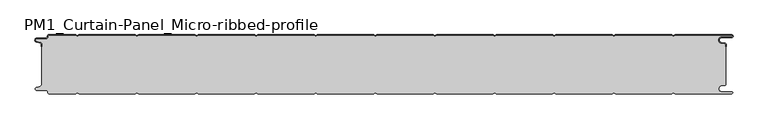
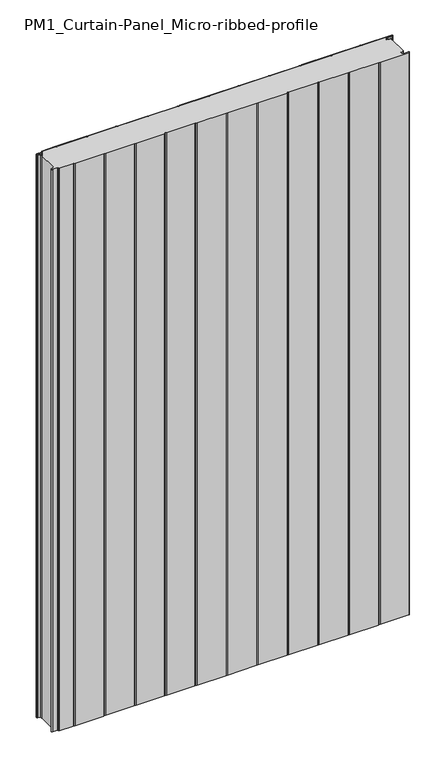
"""IFC4 building model written with IfcOpenShell, lengths in millimetres: plate geometry, PM1_Curtain-Panel_Micro-ribbed-profile : ACH_PM1_Acoustic-Sectioning-Panel_100M."""

from ifc_helpers import new_model, si_unit, point, frame, frame_2d, origin, origin_with_axes, place, context, project, spatial, polyline, circle_curve, trimmed, segment, composite_curve, outline, extrude, source, transform, mapped, element, save
from ifc_brep_helpers import plane_surface, cylinder_surface, revolved_surface, advanced_brep


def pm1_curtain_panel_micro_ribbed_profile_215b7ad8(model_context):
    return source(origin(), model_context, "Body", "SolidModel", [
        advanced_brep(
        [(-575.0, -15.878557, 1945.7507136), (-575.0, -20.0, 1945.7507136), (-574.2, -20.0, 1945.7507136), (-574.2, -15.878557, 1945.7507136), (-576.370137, -13.1503208, 1945.7507136), (-582.529863, -11.728236, 1945.7507136), (-581.9, -6.2, 1945.7507136), (-566.4, -6.2, 1945.7507136), (-563.6, -3.4, 1945.7507136), (-563.6, -2.0, 1945.7507136), (-562.4, -0.8, 1945.7507136), (-517.3143588, -0.8, 1945.7507136), (-514.4, -2.482606, 1945.7507136), (-511.4856412, -0.8, 1945.7507136), (-417.3143588, -0.8, 1945.7507136), (-414.4, -2.482606, 1945.7507136), (-411.4856412, -0.8, 1945.7507136), (-317.3143588, -0.8, 1945.7507136), (-314.4, -2.482606, 1945.7507136), (-311.4856412, -0.8, 1945.7507136), (-217.3143588, -0.8, 1945.7507136), (-214.4, -2.482606, 1945.7507136), (-211.4856412, -0.8, 1945.7507136), (-117.3143588, -0.8, 1945.7507136), (-114.4, -2.482606, 1945.7507136), (-111.4856412, -0.8, 1945.7507136), (-17.3143588, -0.8, 1945.7507136), (-14.4, -2.482606, 1945.7507136), (-11.4856412, -0.8, 1945.7507136), (82.6856412, -0.8, 1945.7507136), (85.6, -2.482606, 1945.7507136), (88.5143588, -0.8, 1945.7507136), (182.6856412, -0.8, 1945.7507136), (185.6, -2.482606, 1945.7507136), (188.5143588, -0.8, 1945.7507136), (282.6856412, -0.8, 1945.7507136), (285.6, -2.482606, 1945.7507136), (288.5143588, -0.8, 1945.7507136), (382.6856412, -0.8, 1945.7507136), (385.6, -2.482606, 1945.7507136), (388.5143588, -0.8, 1945.7507136), (482.6856412, -0.8, 1945.7507136), (485.6, -2.482606, 1945.7507136), (488.5143588, -0.8, 1945.7507136), (583.1, -0.8, 1945.7507136), (583.1, -4.2, 1945.7507136), (566.1, -4.2, 1945.7507136), (565.2664884, -13.7270771, 1945.7507136), (571.7125669, -14.8636953, 1945.7507136), (573.2, -16.6363492, 1945.7507136), (573.2, -20.0, 1945.7507136), (574.0, -20.0, 1945.7507136), (574.0, -16.6363492, 1945.7507136), (571.8514855, -14.0758491, 1945.7507136), (565.405407, -12.939231, 1945.7507136), (566.1, -5.0, 1945.7507136), (583.1, -5.0, 1945.7507136), (585.6, -2.5, 1945.7507136), (583.1, 0.0, 1945.7507136), (488.2999995, 0.0, 1945.7507136), (485.6, -1.5588455, 1945.7507136), (482.9000005, 0.0, 1945.7507136), (388.2999995, 0.0, 1945.7507136), (385.6, -1.5588455, 1945.7507136), (382.9000005, 0.0, 1945.7507136), (288.2999995, 0.0, 1945.7507136), (285.6, -1.5588455, 1945.7507136), (282.9000005, 0.0, 1945.7507136), (188.2999995, 0.0, 1945.7507136), (185.6, -1.5588455, 1945.7507136), (182.9000005, 0.0, 1945.7507136), (88.2999995, 0.0, 1945.7507136), (85.6, -1.5588455, 1945.7507136), (82.9000005, 0.0, 1945.7507136), (-11.7000005, 0.0, 1945.7507136), (-14.4, -1.5588455, 1945.7507136), (-17.0999995, 0.0, 1945.7507136), (-111.7000005, 0.0, 1945.7507136), (-114.4, -1.5588455, 1945.7507136), (-117.0999995, 0.0, 1945.7507136), (-211.7000005, 0.0, 1945.7507136), (-214.4, -1.5588455, 1945.7507136), (-217.0999995, 0.0, 1945.7507136), (-311.7000005, 0.0, 1945.7507136), (-314.4, -1.5588455, 1945.7507136), (-317.0999995, 0.0, 1945.7507136), (-411.7000005, 0.0, 1945.7507136), (-414.4, -1.5588455, 1945.7507136), (-417.0999995, 0.0, 1945.7507136), (-511.7000005, 0.0, 1945.7507136), (-514.4, -1.5588455, 1945.7507136), (-517.0999995, 0.0, 1945.7507136), (-562.4, 0.0, 1945.7507136), (-564.4, -2.0, 1945.7507136), (-564.4, -3.4, 1945.7507136), (-566.4, -5.4, 1945.7507136), (-581.9, -5.4, 1945.7507136), (-582.7098239, -12.5077322, 1945.7507136), (-576.5500979, -13.929817, 1945.7507136), (-575.0, -15.878557, 0.0), (-576.5500978, -13.9298169, 0.0), (-582.7098239, -12.507732, 0.0), (-581.9, -5.4, 0.0), (-566.4, -5.4, 0.0), (-564.4, -3.4, 0.0), (-564.4, -2.0, 0.0), (-562.4, 0.0, 0.0), (-517.0999995, 0.0, 0.0), (-514.4, -1.5588455, 0.0), (-511.7000005, 0.0, 0.0), (-417.0999995, 0.0, 0.0), (-414.4, -1.5588455, 0.0), (-411.7000005, 0.0, 0.0), (-317.0999995, 0.0, 0.0), (-314.4, -1.5588455, 0.0), (-311.7000005, 0.0, 0.0), (-217.0999995, 0.0, 0.0), (-214.4, -1.5588455, 0.0), (-211.7000005, 0.0, 0.0), (-117.0999995, 0.0, 0.0), (-114.4, -1.5588455, 0.0), (-111.7000005, 0.0, 0.0), (-17.0999995, 0.0, 0.0), (-14.4, -1.5588455, 0.0), (-11.7000005, 0.0, 0.0), (82.9000005, 0.0, 0.0), (85.6, -1.5588455, 0.0), (88.2999995, 0.0, 0.0), (182.9000005, 0.0, 0.0), (185.6, -1.5588455, 0.0), (188.2999995, 0.0, 0.0), (282.9000005, 0.0, 0.0), (285.6, -1.5588455, 0.0), (288.2999995, 0.0, 0.0), (382.9000005, 0.0, 0.0), (385.6, -1.5588455, 0.0), (388.2999995, 0.0, 0.0), (482.9000005, 0.0, 0.0), (485.6, -1.5588455, 0.0), (488.2999995, 0.0, 0.0), (583.1, 0.0, 0.0), (585.6, -2.5, 0.0), (583.1, -5.0, 0.0), (566.1, -5.0, 0.0), (565.405407, -12.939231, 0.0), (571.8514855, -14.0758491, 0.0), (574.0, -16.6363492, 0.0), (574.0, -20.0, 0.0), (573.2, -20.0, 0.0), (573.2, -16.6363492, 0.0), (571.7125669, -14.8636953, 0.0), (565.2664884, -13.7270772, 0.0), (566.1, -4.2, 0.0), (583.1, -4.2, 0.0), (583.1, -0.8, 0.0), (488.5143588, -0.8, 0.0), (485.6, -2.482606, 0.0), (482.6856412, -0.8, 0.0), (388.5143588, -0.8, 0.0), (385.6, -2.482606, 0.0), (382.6856412, -0.8, 0.0), (288.5143588, -0.8, 0.0), (285.6, -2.482606, 0.0), (282.6856412, -0.8, 0.0), (188.5143588, -0.8, 0.0), (185.6, -2.482606, 0.0), (182.6856412, -0.8, 0.0), (88.5143588, -0.8, 0.0), (85.6, -2.482606, 0.0), (82.6856412, -0.8, 0.0), (-11.4856412, -0.8, 0.0), (-14.4, -2.482606, 0.0), (-17.3143588, -0.8, 0.0), (-111.4856412, -0.8, 0.0), (-114.4, -2.482606, 0.0), (-117.3143588, -0.8, 0.0), (-211.4856412, -0.8, 0.0), (-214.4, -2.482606, 0.0), (-217.3143588, -0.8, 0.0), (-311.4856412, -0.8, 0.0), (-314.4, -2.482606, 0.0), (-317.3143588, -0.8, 0.0), (-411.4856412, -0.8, 0.0), (-414.4, -2.482606, 0.0), (-417.3143588, -0.8, 0.0), (-511.4856412, -0.8, 0.0), (-514.4, -2.482606, 0.0), (-517.3143588, -0.8, 0.0), (-562.4, -0.8, 0.0), (-563.6, -2.0, 0.0), (-563.6, -3.4, 0.0), (-566.4, -6.2, 0.0), (-581.9, -6.2, 0.0), (-582.529863, -11.7282362, 0.0), (-576.370137, -13.150321, 0.0), (-574.2, -15.878557, 0.0), (-574.2, -20.0, 0.0), (-575.0, -20.0, 0.0)],
        [
            (0, 1),
            (1, 2),
            (2, 3),
            (3, 4, circle_curve(frame((-577.0, -15.878557, 1945.7507136), z_axis=(0.0, 0.0, 1.0), x_axis=(1.0, 0.0, 0.0)), 2.8)),
            (4, 5),
            (5, 6, circle_curve(frame((-581.9, -9.0, 1945.7507136), z_axis=(0.0, 0.0, -1.0), x_axis=(1.0, 0.0, 0.0)), 2.8)),
            (6, 7),
            (7, 8, circle_curve(frame((-566.4, -3.4, 1945.7507136), z_axis=(0.0, 0.0, 1.0), x_axis=(1.0, 0.0, 0.0)), 2.8)),
            (8, 9),
            (9, 10, circle_curve(frame((-562.4, -2.0, 1945.7507136), z_axis=(0.0, 0.0, -1.0), x_axis=(1.0, 0.0, 0.0)), 1.2)),
            (10, 11),
            (11, 12),
            (12, 13),
            (13, 14),
            (14, 15),
            (15, 16),
            (16, 17),
            (17, 18),
            (18, 19),
            (19, 20),
            (20, 21),
            (21, 22),
            (22, 23),
            (23, 24),
            (24, 25),
            (25, 26),
            (26, 27),
            (27, 28),
            (28, 29),
            (29, 30),
            (30, 31),
            (31, 32),
            (32, 33),
            (33, 34),
            (34, 35),
            (35, 36),
            (36, 37),
            (37, 38),
            (38, 39),
            (39, 40),
            (40, 41),
            (41, 42),
            (42, 43),
            (43, 44),
            (44, 45, circle_curve(frame((583.1, -2.5, 1945.7507136), z_axis=(0.0, 0.0, -1.0), x_axis=(1.0, 0.0, 0.0)), 1.7)),
            (45, 46),
            (46, 47, circle_curve(frame((566.1, -9.0, 1945.7507136), z_axis=(0.0, 0.0, 1.0), x_axis=(1.0, 0.0, 0.0)), 4.8)),
            (47, 48),
            (48, 49, circle_curve(frame((571.4, -16.6363492, 1945.7507136), z_axis=(0.0, 0.0, -1.0), x_axis=(1.0, 0.0, 0.0)), 1.8)),
            (49, 50),
            (50, 51),
            (51, 52),
            (52, 53, circle_curve(frame((571.4, -16.6363492, 1945.7507136), z_axis=(0.0, 0.0, 1.0), x_axis=(1.0, 0.0, 0.0)), 2.6)),
            (53, 54),
            (54, 55, circle_curve(frame((566.1, -9.0, 1945.7507136), z_axis=(0.0, 0.0, -1.0), x_axis=(1.0, 0.0, 0.0)), 4.0)),
            (55, 56),
            (56, 57, circle_curve(frame((583.1, -2.5, 1945.7507136), z_axis=(0.0, 0.0, 1.0), x_axis=(1.0, 0.0, 0.0)), 2.5)),
            (57, 58, circle_curve(frame((583.1, -2.5, 1945.7507136), z_axis=(0.0, 0.0, 1.0), x_axis=(1.0, 0.0, 0.0)), 2.5)),
            (58, 59),
            (59, 60),
            (60, 61),
            (61, 62),
            (62, 63),
            (63, 64),
            (64, 65),
            (65, 66),
            (66, 67),
            (67, 68),
            (68, 69),
            (69, 70),
            (70, 71),
            (71, 72),
            (72, 73),
            (73, 74),
            (74, 75),
            (75, 76),
            (76, 77),
            (77, 78),
            (78, 79),
            (79, 80),
            (80, 81),
            (81, 82),
            (82, 83),
            (83, 84),
            (84, 85),
            (85, 86),
            (86, 87),
            (87, 88),
            (88, 89),
            (89, 90),
            (90, 91),
            (91, 92),
            (92, 93, circle_curve(frame((-562.4, -2.0, 1945.7507136), z_axis=(0.0, 0.0, 1.0), x_axis=(1.0, 0.0, 0.0)), 2.0)),
            (93, 94),
            (94, 95, circle_curve(frame((-566.4, -3.4, 1945.7507136), z_axis=(0.0, 0.0, -1.0), x_axis=(1.0, 0.0, 0.0)), 2.0)),
            (95, 96),
            (96, 97, circle_curve(frame((-581.9, -9.0, 1945.7507136), z_axis=(0.0, 0.0, 1.0), x_axis=(1.0, 0.0, 0.0)), 3.6)),
            (97, 98),
            (98, 0, circle_curve(frame((-577.0, -15.878557, 1945.7507136), z_axis=(0.0, 0.0, -1.0), x_axis=(1.0, 0.0, 0.0)), 2.0)),
            (99, 100, circle_curve(frame((-577.0, -15.878557, 0.0), z_axis=(0.0, 0.0, 1.0), x_axis=(1.0, 0.0, 0.0)), 2.0)),
            (100, 101),
            (101, 102, circle_curve(frame((-581.9, -9.0, 0.0), z_axis=(0.0, 0.0, -1.0), x_axis=(1.0, 0.0, 0.0)), 3.6)),
            (102, 103),
            (103, 104, circle_curve(frame((-566.4, -3.4, 0.0), z_axis=(0.0, 0.0, 1.0), x_axis=(1.0, 0.0, 0.0)), 2.0)),
            (104, 105),
            (105, 106, circle_curve(frame((-562.4, -2.0, 0.0), z_axis=(0.0, 0.0, -1.0), x_axis=(1.0, 0.0, 0.0)), 2.0)),
            (106, 107),
            (107, 108),
            (108, 109),
            (109, 110),
            (110, 111),
            (111, 112),
            (112, 113),
            (113, 114),
            (114, 115),
            (115, 116),
            (116, 117),
            (117, 118),
            (118, 119),
            (119, 120),
            (120, 121),
            (121, 122),
            (122, 123),
            (123, 124),
            (124, 125),
            (125, 126),
            (126, 127),
            (127, 128),
            (128, 129),
            (129, 130),
            (130, 131),
            (131, 132),
            (132, 133),
            (133, 134),
            (134, 135),
            (135, 136),
            (136, 137),
            (137, 138),
            (138, 139),
            (139, 140),
            (140, 141, circle_curve(frame((583.1, -2.5, 0.0), z_axis=(0.0, 0.0, -1.0), x_axis=(1.0, 0.0, 0.0)), 2.5)),
            (141, 142, circle_curve(frame((583.1, -2.5, 0.0), z_axis=(0.0, 0.0, -1.0), x_axis=(1.0, 0.0, 0.0)), 2.5)),
            (142, 143),
            (143, 144, circle_curve(frame((566.1, -9.0, 0.0), z_axis=(0.0, 0.0, 1.0), x_axis=(1.0, 0.0, 0.0)), 4.0)),
            (144, 145),
            (145, 146, circle_curve(frame((571.4, -16.6363492, 0.0), z_axis=(0.0, 0.0, -1.0), x_axis=(1.0, 0.0, 0.0)), 2.6)),
            (146, 147),
            (147, 148),
            (148, 149),
            (149, 150, circle_curve(frame((571.4, -16.6363492, 0.0), z_axis=(0.0, 0.0, 1.0), x_axis=(1.0, 0.0, 0.0)), 1.8)),
            (150, 151),
            (151, 152, circle_curve(frame((566.1, -9.0, 0.0), z_axis=(0.0, 0.0, -1.0), x_axis=(1.0, 0.0, 0.0)), 4.8)),
            (152, 153),
            (153, 154, circle_curve(frame((583.1, -2.5, 0.0), z_axis=(0.0, 0.0, 1.0), x_axis=(1.0, 0.0, 0.0)), 1.7)),
            (154, 155),
            (155, 156),
            (156, 157),
            (157, 158),
            (158, 159),
            (159, 160),
            (160, 161),
            (161, 162),
            (162, 163),
            (163, 164),
            (164, 165),
            (165, 166),
            (166, 167),
            (167, 168),
            (168, 169),
            (169, 170),
            (170, 171),
            (171, 172),
            (172, 173),
            (173, 174),
            (174, 175),
            (175, 176),
            (176, 177),
            (177, 178),
            (178, 179),
            (179, 180),
            (180, 181),
            (181, 182),
            (182, 183),
            (183, 184),
            (184, 185),
            (185, 186),
            (186, 187),
            (187, 188),
            (188, 189, circle_curve(frame((-562.4, -2.0, 0.0), z_axis=(0.0, 0.0, 1.0), x_axis=(1.0, 0.0, 0.0)), 1.2)),
            (189, 190),
            (190, 191, circle_curve(frame((-566.4, -3.4, 0.0), z_axis=(0.0, 0.0, -1.0), x_axis=(1.0, 0.0, 0.0)), 2.8)),
            (191, 192),
            (192, 193, circle_curve(frame((-581.9, -9.0, 0.0), z_axis=(0.0, 0.0, 1.0), x_axis=(1.0, 0.0, 0.0)), 2.8)),
            (193, 194),
            (194, 195, circle_curve(frame((-577.0, -15.878557, 0.0), z_axis=(0.0, 0.0, -1.0), x_axis=(1.0, 0.0, 0.0)), 2.8)),
            (195, 196),
            (196, 197),
            (197, 99),
            (0, 99),
            (197, 1),
            (196, 2),
            (195, 3),
            (194, 4),
            (193, 5),
            (192, 6),
            (191, 7),
            (190, 8),
            (189, 9),
            (188, 10),
            (187, 11),
            (186, 12),
            (185, 13),
            (184, 14),
            (183, 15),
            (182, 16),
            (181, 17),
            (180, 18),
            (179, 19),
            (178, 20),
            (177, 21),
            (176, 22),
            (175, 23),
            (174, 24),
            (173, 25),
            (172, 26),
            (171, 27),
            (170, 28),
            (169, 29),
            (168, 30),
            (167, 31),
            (166, 32),
            (165, 33),
            (164, 34),
            (163, 35),
            (162, 36),
            (161, 37),
            (160, 38),
            (159, 39),
            (158, 40),
            (157, 41),
            (156, 42),
            (155, 43),
            (154, 44),
            (153, 45),
            (152, 46),
            (151, 47),
            (150, 48),
            (149, 49),
            (148, 50),
            (147, 51),
            (146, 52),
            (145, 53),
            (144, 54),
            (143, 55),
            (142, 56),
            (140, 58),
            (139, 59),
            (138, 60),
            (137, 61),
            (136, 62),
            (135, 63),
            (134, 64),
            (133, 65),
            (132, 66),
            (131, 67),
            (130, 68),
            (129, 69),
            (128, 70),
            (127, 71),
            (126, 72),
            (125, 73),
            (124, 74),
            (123, 75),
            (122, 76),
            (121, 77),
            (120, 78),
            (119, 79),
            (118, 80),
            (117, 81),
            (116, 82),
            (115, 83),
            (114, 84),
            (113, 85),
            (112, 86),
            (111, 87),
            (110, 88),
            (109, 89),
            (108, 90),
            (107, 91),
            (106, 92),
            (105, 93),
            (104, 94),
            (103, 95),
            (102, 96),
            (101, 97),
            (100, 98),
        ],
        [
            plane_surface(frame((-575.0, 0.0, 1945.7507136), z_axis=(0.0, 0.0, 1.0), x_axis=(0.0, 1.0, 0.0))),
            plane_surface(frame((-575.0, 0.0, 0.0), z_axis=(0.0, 0.0, -1.0), x_axis=(0.0, 1.0, 0.0))),
            plane_surface(frame((-575.0, -15.878557, 1945.7507136), z_axis=(-1.0, 0.0, 0.0), x_axis=(0.0, 0.0, -1.0))),
            plane_surface(frame((-575.0, -20.0, 1945.7507136), z_axis=(0.0, -1.0, 0.0), x_axis=(0.0, 0.0, -1.0))),
            plane_surface(frame((-574.2, -20.0, 1945.7507136), z_axis=(1.0, 0.0, 0.0), x_axis=(0.0, 0.0, -1.0))),
            cylinder_surface(frame((-577.0, -15.878557, 1945.7507136), z_axis=(0.0, 0.0, 1.0), x_axis=(1.0, 0.0, 0.0)), 2.8),
            plane_surface(frame((-576.370137, -13.150321, 1945.7507136), z_axis=(0.22495108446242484, 0.9743700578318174, 0.0), x_axis=(0.0, 0.0, -1.0))),
            revolved_surface(polyline([(-579.1, -9.0, 0.0), (-579.1, -9.0, 1945.7507136)]), (-581.9, -9.0, 1945.7507136), (0.0, 0.0, -1.0)),
            plane_surface(frame((-581.9, -6.2, 1945.7507136), z_axis=(0.0, -1.0, 0.0), x_axis=(0.0, 0.0, -1.0))),
            cylinder_surface(frame((-566.4, -3.4, 1945.7507136), z_axis=(0.0, 0.0, 1.0), x_axis=(1.0, 0.0, 0.0)), 2.8),
            plane_surface(frame((-563.6, -3.4, 1945.7507136), z_axis=(1.0, 0.0, 0.0), x_axis=(0.0, 0.0, -1.0))),
            revolved_surface(polyline([(-561.1999999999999, -2.0, 0.0), (-561.1999999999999, -2.0, 1945.7507136)]), (-562.4, -2.0, 1945.7507136), (0.0, 0.0, -1.0)),
            plane_surface(frame((-562.4, -0.8, 1945.7507136), z_axis=(0.0, -1.0, 0.0), x_axis=(0.0, 0.0, -1.0))),
            plane_surface(frame((-517.3143588, -0.8, 1945.7507136), z_axis=(-0.5000000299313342, -0.8660253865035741, 0.0), x_axis=(0.0, 0.0, -1.0))),
            plane_surface(frame((-514.4, -2.482606, 1945.7507136), z_axis=(0.5000000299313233, -0.8660253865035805, 0.0), x_axis=(0.0, 0.0, -1.0))),
            plane_surface(frame((-511.4856412, -0.8, 1945.7507136), z_axis=(0.0, -1.0, 0.0), x_axis=(0.0, 0.0, -1.0))),
            plane_surface(frame((-417.3143588, -0.8, 1945.7507136), z_axis=(-0.5000000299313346, -0.8660253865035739, 0.0), x_axis=(0.0, 0.0, -1.0))),
            plane_surface(frame((-414.4, -2.482606, 1945.7507136), z_axis=(0.5000000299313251, -0.8660253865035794, 0.0), x_axis=(0.0, 0.0, -1.0))),
            plane_surface(frame((-411.4856412, -0.8, 1945.7507136), z_axis=(0.0, -1.0, 0.0), x_axis=(0.0, 0.0, -1.0))),
            plane_surface(frame((-317.3143588, -0.8, 1945.7507136), z_axis=(-0.5000000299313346, -0.866025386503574, 0.0), x_axis=(0.0, 0.0, -1.0))),
            plane_surface(frame((-314.4, -2.482606, 1945.7507136), z_axis=(0.5000000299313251, -0.8660253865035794, 0.0), x_axis=(0.0, 0.0, -1.0))),
            plane_surface(frame((-311.4856412, -0.8, 1945.7507136), z_axis=(0.0, -1.0, 0.0), x_axis=(0.0, 0.0, -1.0))),
            plane_surface(frame((-217.3143588, -0.8, 1945.7507136), z_axis=(-0.5000000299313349, -0.8660253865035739, 0.0), x_axis=(0.0, 0.0, -1.0))),
            plane_surface(frame((-214.4, -2.482606, 1945.7507136), z_axis=(0.5000000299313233, -0.8660253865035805, 0.0), x_axis=(0.0, 0.0, -1.0))),
            plane_surface(frame((-211.4856412, -0.8, 1945.7507136), z_axis=(0.0, -1.0, 0.0), x_axis=(0.0, 0.0, -1.0))),
            plane_surface(frame((-117.3143588, -0.8, 1945.7507136), z_axis=(-0.5000000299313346, -0.866025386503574, 0.0), x_axis=(0.0, 0.0, -1.0))),
            plane_surface(frame((-114.4, -2.482606, 1945.7507136), z_axis=(0.5000000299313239, -0.8660253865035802, 0.0), x_axis=(0.0, 0.0, -1.0))),
            plane_surface(frame((-111.4856412, -0.8, 1945.7507136), z_axis=(0.0, -1.0, 0.0), x_axis=(0.0, 0.0, -1.0))),
            plane_surface(frame((-17.3143588, -0.8, 1945.7507136), z_axis=(-0.5000000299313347, -0.8660253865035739, 0.0), x_axis=(0.0, 0.0, -1.0))),
            plane_surface(frame((-14.4, -2.482606, 1945.7507136), z_axis=(0.5000000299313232, -0.8660253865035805, 0.0), x_axis=(0.0, 0.0, -1.0))),
            plane_surface(frame((-11.4856412, -0.8, 1945.7507136), z_axis=(0.0, -1.0, 0.0), x_axis=(0.0, 0.0, -1.0))),
            plane_surface(frame((82.6856412, -0.8, 1945.7507136), z_axis=(-0.5000000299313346, -0.866025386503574, 0.0), x_axis=(0.0, 0.0, -1.0))),
            plane_surface(frame((85.6, -2.482606, 1945.7507136), z_axis=(0.5000000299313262, -0.8660253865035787, 0.0), x_axis=(0.0, 0.0, -1.0))),
            plane_surface(frame((88.5143588, -0.8, 1945.7507136), z_axis=(0.0, -1.0, 0.0), x_axis=(0.0, 0.0, -1.0))),
            plane_surface(frame((182.6856412, -0.8, 1945.7507136), z_axis=(-0.5000000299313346, -0.8660253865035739, 0.0), x_axis=(0.0, 0.0, -1.0))),
            plane_surface(frame((185.6, -2.482606, 1945.7507136), z_axis=(0.5000000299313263, -0.8660253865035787, 0.0), x_axis=(0.0, 0.0, -1.0))),
            plane_surface(frame((188.5143588, -0.8, 1945.7507136), z_axis=(0.0, -1.0, 0.0), x_axis=(0.0, 0.0, -1.0))),
            plane_surface(frame((282.6856412, -0.8, 1945.7507136), z_axis=(-0.5000000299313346, -0.8660253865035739, 0.0), x_axis=(0.0, 0.0, -1.0))),
            plane_surface(frame((285.6, -2.482606, 1945.7507136), z_axis=(0.5000000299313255, -0.8660253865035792, 0.0), x_axis=(0.0, 0.0, -1.0))),
            plane_surface(frame((288.5143588, -0.8, 1945.7507136), z_axis=(0.0, -1.0, 0.0), x_axis=(0.0, 0.0, -1.0))),
            plane_surface(frame((382.6856412, -0.8, 1945.7507136), z_axis=(-0.5000000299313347, -0.8660253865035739, 0.0), x_axis=(0.0, 0.0, -1.0))),
            plane_surface(frame((385.6, -2.482606, 1945.7507136), z_axis=(0.5000000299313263, -0.8660253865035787, 0.0), x_axis=(0.0, 0.0, -1.0))),
            plane_surface(frame((388.5143588, -0.8, 1945.7507136), z_axis=(0.0, -1.0, 0.0), x_axis=(0.0, 0.0, -1.0))),
            plane_surface(frame((482.6856412, -0.8, 1945.7507136), z_axis=(-0.5000000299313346, -0.866025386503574, 0.0), x_axis=(0.0, 0.0, -1.0))),
            plane_surface(frame((485.6, -2.482606, 1945.7507136), z_axis=(0.5000000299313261, -0.8660253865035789, 0.0), x_axis=(0.0, 0.0, -1.0))),
            plane_surface(frame((535.6, -0.8, 1945.7507136), z_axis=(0.0, -1.0, 0.0), x_axis=(0.0, 0.0, -1.0))),
            revolved_surface(polyline([(584.8000000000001, -2.5, 0.0), (584.8000000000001, -2.5, 1945.7507136)]), (583.1, -2.5, 1945.7507136), (0.0, 0.0, -1.0)),
            plane_surface(frame((583.1, -4.2, 1945.7507136), z_axis=(0.0, 1.0, 0.0), x_axis=(0.0, 0.0, -1.0))),
            cylinder_surface(frame((566.1, -9.0, 1945.7507136), z_axis=(0.0, 0.0, 1.0), x_axis=(1.0, 0.0, 0.0)), 4.8),
            plane_surface(frame((565.2664884, -13.7270772, 1945.7507136), z_axis=(-0.17364825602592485, -0.9848077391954, 0.0), x_axis=(0.0, 0.0, -1.0))),
            revolved_surface(polyline([(573.1999999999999, -16.6363492, 0.0), (573.1999999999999, -16.6363492, 1945.7507136)]), (571.4, -16.6363492, 1945.7507136), (0.0, 0.0, -1.0)),
            plane_surface(frame((573.2, -16.6363492, 1945.7507136), z_axis=(-1.0, 0.0, 0.0), x_axis=(0.0, 0.0, -1.0))),
            plane_surface(frame((573.2, -20.0, 1945.7507136), z_axis=(0.0, -1.0, 0.0), x_axis=(0.0, 0.0, -1.0))),
            plane_surface(frame((574.0, -20.0, 1945.7507136), z_axis=(1.0, 0.0, 0.0), x_axis=(0.0, 0.0, -1.0))),
            cylinder_surface(frame((571.4, -16.6363492, 1945.7507136), z_axis=(0.0, 0.0, 1.0), x_axis=(1.0, 0.0, 0.0)), 2.6),
            plane_surface(frame((571.8514855, -14.0758491, 1945.7507136), z_axis=(0.1736482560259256, 0.9848077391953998, 0.0), x_axis=(0.0, 0.0, -1.0))),
            revolved_surface(polyline([(570.1, -9.0, 0.0), (570.1, -9.0, 1945.7507136)]), (566.1, -9.0, 1945.7507136), (0.0, 0.0, -1.0)),
            plane_surface(frame((566.1, -5.0, 1945.7507136), z_axis=(0.0, -1.0, 0.0), x_axis=(0.0, 0.0, -1.0))),
            cylinder_surface(frame((583.1, -2.5, 1945.7507136), z_axis=(0.0, 0.0, 1.0), x_axis=(1.0, 0.0, 0.0)), 2.5),
            plane_surface(frame((535.6, 0.0, 1945.7507136), z_axis=(0.0, 1.0, 0.0), x_axis=(0.0, 0.0, -1.0))),
            plane_surface(frame((488.2999995, 0.0, 1945.7507136), z_axis=(-0.5000000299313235, 0.8660253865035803, 0.0), x_axis=(0.0, 0.0, -1.0))),
            plane_surface(frame((485.6, -1.5588455, 1945.7507136), z_axis=(0.5000000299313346, 0.8660253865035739, 0.0), x_axis=(0.0, 0.0, -1.0))),
            plane_surface(frame((482.9000005, 0.0, 1945.7507136), z_axis=(0.0, 1.0, 0.0), x_axis=(0.0, 0.0, -1.0))),
            plane_surface(frame((388.2999995, 0.0, 1945.7507136), z_axis=(-0.5000000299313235, 0.8660253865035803, 0.0), x_axis=(0.0, 0.0, -1.0))),
            plane_surface(frame((385.6, -1.5588455, 1945.7507136), z_axis=(0.5000000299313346, 0.8660253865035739, 0.0), x_axis=(0.0, 0.0, -1.0))),
            plane_surface(frame((382.9000005, 0.0, 1945.7507136), z_axis=(0.0, 1.0, 0.0), x_axis=(0.0, 0.0, -1.0))),
            plane_surface(frame((288.2999995, 0.0, 1945.7507136), z_axis=(-0.5000000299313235, 0.8660253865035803, 0.0), x_axis=(0.0, 0.0, -1.0))),
            plane_surface(frame((285.6, -1.5588455, 1945.7507136), z_axis=(0.5000000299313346, 0.8660253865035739, 0.0), x_axis=(0.0, 0.0, -1.0))),
            plane_surface(frame((282.9000005, 0.0, 1945.7507136), z_axis=(0.0, 1.0, 0.0), x_axis=(0.0, 0.0, -1.0))),
            plane_surface(frame((188.2999995, 0.0, 1945.7507136), z_axis=(-0.5000000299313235, 0.8660253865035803, 0.0), x_axis=(0.0, 0.0, -1.0))),
            plane_surface(frame((185.6, -1.5588455, 1945.7507136), z_axis=(0.5000000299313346, 0.8660253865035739, 0.0), x_axis=(0.0, 0.0, -1.0))),
            plane_surface(frame((182.9000005, 0.0, 1945.7507136), z_axis=(0.0, 1.0, 0.0), x_axis=(0.0, 0.0, -1.0))),
            plane_surface(frame((88.2999995, 0.0, 1945.7507136), z_axis=(-0.5000000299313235, 0.8660253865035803, 0.0), x_axis=(0.0, 0.0, -1.0))),
            plane_surface(frame((85.6, -1.5588455, 1945.7507136), z_axis=(0.5000000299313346, 0.8660253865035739, 0.0), x_axis=(0.0, 0.0, -1.0))),
            plane_surface(frame((82.9000005, 0.0, 1945.7507136), z_axis=(0.0, 1.0, 0.0), x_axis=(0.0, 0.0, -1.0))),
            plane_surface(frame((-11.7000005, 0.0, 1945.7507136), z_axis=(-0.5000000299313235, 0.8660253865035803, 0.0), x_axis=(0.0, 0.0, -1.0))),
            plane_surface(frame((-14.4, -1.5588455, 1945.7507136), z_axis=(0.5000000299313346, 0.8660253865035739, 0.0), x_axis=(0.0, 0.0, -1.0))),
            plane_surface(frame((-17.0999995, 0.0, 1945.7507136), z_axis=(0.0, 1.0, 0.0), x_axis=(0.0, 0.0, -1.0))),
            plane_surface(frame((-111.7000005, 0.0, 1945.7507136), z_axis=(-0.5000000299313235, 0.8660253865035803, 0.0), x_axis=(0.0, 0.0, -1.0))),
            plane_surface(frame((-114.4, -1.5588455, 1945.7507136), z_axis=(0.5000000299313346, 0.8660253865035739, 0.0), x_axis=(0.0, 0.0, -1.0))),
            plane_surface(frame((-117.0999995, 0.0, 1945.7507136), z_axis=(0.0, 1.0, 0.0), x_axis=(0.0, 0.0, -1.0))),
            plane_surface(frame((-211.7000005, 0.0, 1945.7507136), z_axis=(-0.5000000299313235, 0.8660253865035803, 0.0), x_axis=(0.0, 0.0, -1.0))),
            plane_surface(frame((-214.4, -1.5588455, 1945.7507136), z_axis=(0.5000000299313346, 0.8660253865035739, 0.0), x_axis=(0.0, 0.0, -1.0))),
            plane_surface(frame((-217.0999995, 0.0, 1945.7507136), z_axis=(0.0, 1.0, 0.0), x_axis=(0.0, 0.0, -1.0))),
            plane_surface(frame((-311.7000005, 0.0, 1945.7507136), z_axis=(-0.5000000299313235, 0.8660253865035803, 0.0), x_axis=(0.0, 0.0, -1.0))),
            plane_surface(frame((-314.4, -1.5588455, 1945.7507136), z_axis=(0.5000000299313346, 0.8660253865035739, 0.0), x_axis=(0.0, 0.0, -1.0))),
            plane_surface(frame((-317.0999995, 0.0, 1945.7507136), z_axis=(0.0, 1.0, 0.0), x_axis=(0.0, 0.0, -1.0))),
            plane_surface(frame((-411.7000005, 0.0, 1945.7507136), z_axis=(-0.5000000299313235, 0.8660253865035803, 0.0), x_axis=(0.0, 0.0, -1.0))),
            plane_surface(frame((-414.4, -1.5588455, 1945.7507136), z_axis=(0.5000000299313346, 0.8660253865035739, 0.0), x_axis=(0.0, 0.0, -1.0))),
            plane_surface(frame((-417.0999995, 0.0, 1945.7507136), z_axis=(0.0, 1.0, 0.0), x_axis=(0.0, 0.0, -1.0))),
            plane_surface(frame((-511.7000005, 0.0, 1945.7507136), z_axis=(-0.5000000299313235, 0.8660253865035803, 0.0), x_axis=(0.0, 0.0, -1.0))),
            plane_surface(frame((-514.4, -1.5588455, 1945.7507136), z_axis=(0.5000000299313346, 0.8660253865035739, 0.0), x_axis=(0.0, 0.0, -1.0))),
            plane_surface(frame((-517.0999995, 0.0, 1945.7507136), z_axis=(0.0, 1.0, 0.0), x_axis=(0.0, 0.0, -1.0))),
            cylinder_surface(frame((-562.4, -2.0, 1945.7507136), z_axis=(0.0, 0.0, 1.0), x_axis=(1.0, 0.0, 0.0)), 2.0),
            plane_surface(frame((-564.4, -2.0, 1945.7507136), z_axis=(-1.0, 0.0, 0.0), x_axis=(0.0, 0.0, -1.0))),
            revolved_surface(polyline([(-564.4, -3.4, 0.0), (-564.4, -3.4, 1945.7507136)]), (-566.4, -3.4, 1945.7507136), (0.0, 0.0, -1.0)),
            plane_surface(frame((-566.4, -5.4, 1945.7507136), z_axis=(0.0, 1.0, 0.0), x_axis=(0.0, 0.0, -1.0))),
            cylinder_surface(frame((-581.9, -9.0, 1945.7507136), z_axis=(0.0, 0.0, 1.0), x_axis=(1.0, 0.0, 0.0)), 3.6),
            plane_surface(frame((-582.7098239, -12.507732, 1945.7507136), z_axis=(-0.22495108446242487, -0.9743700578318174, 0.0), x_axis=(0.0, 0.0, -1.0))),
            revolved_surface(polyline([(-575.0, -15.878557, 0.0), (-575.0, -15.878557, 1945.7507136)]), (-577.0, -15.878557, 1945.7507136), (0.0, 0.0, -1.0)),
        ],
        [
            (0, [[1, 2, 3, 4, 5, 6, 7, 8, 9, 10, 11, 12, 13, 14, 15, 16, 17, 18, 19, 20, 21, 22, 23, 24, 25, 26, 27, 28, 29, 30, 31, 32, 33, 34, 35, 36, 37, 38, 39, 40, 41, 42, 43, 44, 45, 46, 47, 48, 49, 50, 51, 52, 53, 54, 55, 56, 57, 58, 59, 60, 61, 62, 63, 64, 65, 66, 67, 68, 69, 70, 71, 72, 73, 74, 75, 76, 77, 78, 79, 80, 81, 82, 83, 84, 85, 86, 87, 88, 89, 90, 91, 92, 93, 94, 95, 96, 97, 98, 99]]),
            (1, [[100, 101, 102, 103, 104, 105, 106, 107, 108, 109, 110, 111, 112, 113, 114, 115, 116, 117, 118, 119, 120, 121, 122, 123, 124, 125, 126, 127, 128, 129, 130, 131, 132, 133, 134, 135, 136, 137, 138, 139, 140, 141, 142, 143, 144, 145, 146, 147, 148, 149, 150, 151, 152, 153, 154, 155, 156, 157, 158, 159, 160, 161, 162, 163, 164, 165, 166, 167, 168, 169, 170, 171, 172, 173, 174, 175, 176, 177, 178, 179, 180, 181, 182, 183, 184, 185, 186, 187, 188, 189, 190, 191, 192, 193, 194, 195, 196, 197, 198]]),
            (2, [[-1, 199, -198, 200]]),
            (3, [[-2, -200, -197, 201]]),
            (4, [[-3, -201, -196, 202]]),
            (5, [[-4, -202, -195, 203]]),
            (6, [[-5, -203, -194, 204]]),
            (7, [[-6, -204, -193, 205]]),
            (8, [[-7, -205, -192, 206]]),
            (9, [[-8, -206, -191, 207]]),
            (10, [[-9, -207, -190, 208]]),
            (11, [[-10, -208, -189, 209]]),
            (12, [[-11, -209, -188, 210]]),
            (13, [[-12, -210, -187, 211]]),
            (14, [[-13, -211, -186, 212]]),
            (15, [[-14, -212, -185, 213]]),
            (16, [[-15, -213, -184, 214]]),
            (17, [[-16, -214, -183, 215]]),
            (18, [[-17, -215, -182, 216]]),
            (19, [[-18, -216, -181, 217]]),
            (20, [[-19, -217, -180, 218]]),
            (21, [[-20, -218, -179, 219]]),
            (22, [[-21, -219, -178, 220]]),
            (23, [[-22, -220, -177, 221]]),
            (24, [[-23, -221, -176, 222]]),
            (25, [[-24, -222, -175, 223]]),
            (26, [[-25, -223, -174, 224]]),
            (27, [[-26, -224, -173, 225]]),
            (28, [[-27, -225, -172, 226]]),
            (29, [[-28, -226, -171, 227]]),
            (30, [[-29, -227, -170, 228]]),
            (31, [[-30, -228, -169, 229]]),
            (32, [[-31, -229, -168, 230]]),
            (33, [[-32, -230, -167, 231]]),
            (34, [[-33, -231, -166, 232]]),
            (35, [[-34, -232, -165, 233]]),
            (36, [[-35, -233, -164, 234]]),
            (37, [[-36, -234, -163, 235]]),
            (38, [[-37, -235, -162, 236]]),
            (39, [[-38, -236, -161, 237]]),
            (40, [[-39, -237, -160, 238]]),
            (41, [[-40, -238, -159, 239]]),
            (42, [[-41, -239, -158, 240]]),
            (43, [[-42, -240, -157, 241]]),
            (44, [[-43, -241, -156, 242]]),
            (45, [[-44, -242, -155, 243]]),
            (46, [[-45, -243, -154, 244]]),
            (47, [[-46, -244, -153, 245]]),
            (48, [[-47, -245, -152, 246]]),
            (49, [[-48, -246, -151, 247]]),
            (50, [[-49, -247, -150, 248]]),
            (51, [[-50, -248, -149, 249]]),
            (52, [[-51, -249, -148, 250]]),
            (53, [[-52, -250, -147, 251]]),
            (54, [[-53, -251, -146, 252]]),
            (55, [[-54, -252, -145, 253]]),
            (56, [[-55, -253, -144, 254]]),
            (57, [[-56, -254, -143, 255]]),
            (58, [[-255, -142, -141, 256, -58, -57]]),
            (59, [[-59, -256, -140, 257]]),
            (60, [[-60, -257, -139, 258]]),
            (61, [[-61, -258, -138, 259]]),
            (62, [[-62, -259, -137, 260]]),
            (63, [[-63, -260, -136, 261]]),
            (64, [[-64, -261, -135, 262]]),
            (65, [[-65, -262, -134, 263]]),
            (66, [[-66, -263, -133, 264]]),
            (67, [[-67, -264, -132, 265]]),
            (68, [[-68, -265, -131, 266]]),
            (69, [[-69, -266, -130, 267]]),
            (70, [[-70, -267, -129, 268]]),
            (71, [[-71, -268, -128, 269]]),
            (72, [[-72, -269, -127, 270]]),
            (73, [[-73, -270, -126, 271]]),
            (74, [[-74, -271, -125, 272]]),
            (75, [[-75, -272, -124, 273]]),
            (76, [[-76, -273, -123, 274]]),
            (77, [[-77, -274, -122, 275]]),
            (78, [[-78, -275, -121, 276]]),
            (79, [[-79, -276, -120, 277]]),
            (80, [[-80, -277, -119, 278]]),
            (81, [[-81, -278, -118, 279]]),
            (82, [[-82, -279, -117, 280]]),
            (83, [[-83, -280, -116, 281]]),
            (84, [[-84, -281, -115, 282]]),
            (85, [[-85, -282, -114, 283]]),
            (86, [[-86, -283, -113, 284]]),
            (87, [[-87, -284, -112, 285]]),
            (88, [[-88, -285, -111, 286]]),
            (89, [[-89, -286, -110, 287]]),
            (90, [[-90, -287, -109, 288]]),
            (91, [[-91, -288, -108, 289]]),
            (92, [[-92, -289, -107, 290]]),
            (93, [[-93, -290, -106, 291]]),
            (94, [[-94, -291, -105, 292]]),
            (95, [[-95, -292, -104, 293]]),
            (96, [[-96, -293, -103, 294]]),
            (97, [[-97, -294, -102, 295]]),
            (98, [[-98, -295, -101, 296]]),
            (99, [[-99, -296, -100, -199]]),
        ],
    ),
        extrude(outline(composite_curve([segment(polyline([(-574.2, -84.1214426), (-574.2, -15.8785573)]), True, "CONTINUOUS"), segment(trimmed(circle_curve(frame_2d((-577.0, -15.8785573)), 2.8), [point((-574.2, -15.8785573))], [point((-576.370137, -13.1503212))], True, "CARTESIAN"), True, "CONTINUOUS"), segment(polyline([(-576.370137, -13.1503212), (-582.5298631, -11.7282362)]), True, "CONTINUOUS"), segment(trimmed(circle_curve(frame_2d((-581.9, -9.0)), 2.8), [point((-582.5298631, -11.7282362))], [point((-581.9, -6.2))], False, "CARTESIAN"), True, "CONTINUOUS"), segment(polyline([(-581.9, -6.2), (-566.4000001, -6.2)]), True, "CONTINUOUS"), segment(trimmed(circle_curve(frame_2d((-566.4000001, -3.4)), 2.8), [point((-566.4000001, -6.2))], [point((-563.6000001, -3.4))], True, "CARTESIAN"), True, "CONTINUOUS"), segment(polyline([(-563.6000001, -3.4), (-563.6000001, -2.0)]), True, "CONTINUOUS"), segment(trimmed(circle_curve(frame_2d((-562.4000001, -2.0)), 1.2), [point((-563.6000001, -2.0))], [point((-562.4000001, -0.8))], False, "CARTESIAN"), True, "CONTINUOUS"), segment(polyline([(-562.4000001, -0.8), (-517.3143589, -0.8), (-514.4000001, -2.482606), (-511.4856412, -0.8), (-417.3143589, -0.8), (-414.4000001, -2.482606), (-411.4856412, -0.8), (-317.3143589, -0.8), (-314.4000001, -2.482606), (-311.4856412, -0.8), (-217.3143589, -0.8), (-214.4000001, -2.482606), (-211.4856412, -0.8), (-117.3143589, -0.8), (-114.4000001, -2.482606), (-111.4856412, -0.8), (-17.3143589, -0.8), (-14.4000001, -2.482606), (-11.4856412, -0.8), (82.6856411, -0.8), (85.5999999, -2.482606), (88.5143588, -0.8), (182.6856411, -0.8), (185.5999999, -2.482606), (188.5143588, -0.8), (282.6856411, -0.8), (285.5999999, -2.482606), (288.5143588, -0.8), (382.6856411, -0.8), (385.5999999, -2.482606), (388.5143588, -0.8), (482.6856411, -0.8), (485.6, -2.482606), (488.5143588, -0.8), (583.1, -0.8)]), True, "CONTINUOUS"), segment(trimmed(circle_curve(frame_2d((583.1, -2.5)), 1.7), [point((583.1, -0.8))], [point((583.1, -4.2))], False, "CARTESIAN"), True, "CONTINUOUS"), segment(polyline([(583.1, -4.2), (566.1, -4.2)]), True, "CONTINUOUS"), segment(trimmed(circle_curve(frame_2d((566.1, -9.0)), 4.8), [point((566.1, -4.2))], [point((565.2664883, -13.7270771))], True, "CARTESIAN"), True, "CONTINUOUS"), segment(polyline([(565.2664883, -13.7270771), (571.7125668, -14.8636953)]), True, "CONTINUOUS"), segment(trimmed(circle_curve(frame_2d((571.4, -16.6363492)), 1.8), [point((571.7125668, -14.8636953))], [point((573.2, -16.6363492))], False, "CARTESIAN"), True, "CONTINUOUS"), segment(polyline([(573.2, -16.6363492), (573.2, -83.3636508)]), True, "CONTINUOUS"), segment(trimmed(circle_curve(frame_2d((571.4, -83.3636508)), 1.8), [point((573.2, -83.3636508))], [point((571.7125668, -85.1363047))], False, "CARTESIAN"), True, "CONTINUOUS"), segment(polyline([(571.7125668, -85.1363047), (565.2664883, -86.2729229)]), True, "CONTINUOUS"), segment(trimmed(circle_curve(frame_2d((566.1, -91.0)), 4.8), [point((565.2664883, -86.2729229))], [point((566.1, -95.8))], True, "CARTESIAN"), True, "CONTINUOUS"), segment(polyline([(566.1, -95.8), (583.1, -95.8)]), True, "CONTINUOUS"), segment(trimmed(circle_curve(frame_2d((583.1, -97.5)), 1.7), [point((583.1, -95.8))], [point((583.1, -99.2))], False, "CARTESIAN"), True, "CONTINUOUS"), segment(polyline([(583.1, -99.2), (488.5143588, -99.2), (485.6, -97.517394), (482.6856411, -99.2), (388.5143588, -99.2), (385.5999999, -97.517394), (382.6856411, -99.2), (288.5143588, -99.2), (285.5999999, -97.517394), (282.6856411, -99.2), (188.5143588, -99.2), (185.5999999, -97.517394), (182.6856411, -99.2), (88.5143588, -99.2), (85.5999999, -97.517394), (82.6856411, -99.2), (-11.4856412, -99.2), (-14.4000001, -97.517394), (-17.3143589, -99.2), (-111.4856412, -99.2), (-114.4000001, -97.517394), (-117.3143589, -99.2), (-211.4856412, -99.2), (-214.4000001, -97.517394), (-217.3143589, -99.2), (-311.4856412, -99.2), (-314.4000001, -97.517394), (-317.3143589, -99.2), (-411.4856412, -99.2), (-414.4000001, -97.517394), (-417.3143589, -99.2), (-511.4856412, -99.2), (-514.4000001, -97.517394), (-517.3143589, -99.2), (-562.4000001, -99.2)]), True, "CONTINUOUS"), segment(trimmed(circle_curve(frame_2d((-562.4000001, -98.0)), 1.2), [point((-562.4000001, -99.2))], [point((-563.6000001, -98.0))], False, "CARTESIAN"), True, "CONTINUOUS"), segment(polyline([(-563.6000001, -98.0), (-563.6000001, -96.6)]), True, "CONTINUOUS"), segment(trimmed(circle_curve(frame_2d((-566.4000001, -96.6)), 2.8), [point((-563.6000001, -96.6))], [point((-566.4000001, -93.8))], True, "CARTESIAN"), True, "CONTINUOUS"), segment(polyline([(-566.4000001, -93.8), (-581.9, -93.8)]), True, "CONTINUOUS"), segment(trimmed(circle_curve(frame_2d((-581.9, -91.0)), 2.8), [point((-581.9, -93.8))], [point((-582.5298631, -88.2717638))], False, "CARTESIAN"), True, "CONTINUOUS"), segment(polyline([(-582.5298631, -88.2717638), (-576.370137, -86.8496788)]), True, "CONTINUOUS"), segment(trimmed(circle_curve(frame_2d((-577.0, -84.1214426)), 2.8), [point((-576.370137, -86.8496788))], [point((-574.2, -84.1214426))], True, "CARTESIAN"), True, "CONTINUOUS")], self_intersect=False)), origin_with_axes(), (0.0, 0.0, 1.0), 1945.7507136),
    ])


if __name__ == "__main__":
    model = new_model("IFC4")
    model_context = context("Model", 3, world=origin())
    ifc_project = project(units=[si_unit("LENGTHUNIT", "METRE", prefix="MILLI")], contexts=[model_context])
    site = spatial("IfcSite", under=ifc_project)
    building = spatial("IfcBuilding", under=site)
    placement = place(None, origin())
    pm1_curtain_panel_micro_ribbed_profile_shape = pm1_curtain_panel_micro_ribbed_profile_215b7ad8(model_context)
    element("IfcPlate", 1, ObjectType="PM1_Curtain-Panel_Micro-ribbed-profile : ACH_PM1_Acoustic-Sectioning-Panel_100M", at=placement, inside=building, context=model_context, shape_type="MappedRepresentation", body=[
        mapped(pm1_curtain_panel_micro_ribbed_profile_shape, transform((0.0, 0.0, 0.0), x_axis=(1.0, 0.0, 0.0), y_axis=(0.0, 1.0, 0.0), z_axis=(0.0, 0.0, 1.0))),
    ])
    save(model, "model.ifc")
